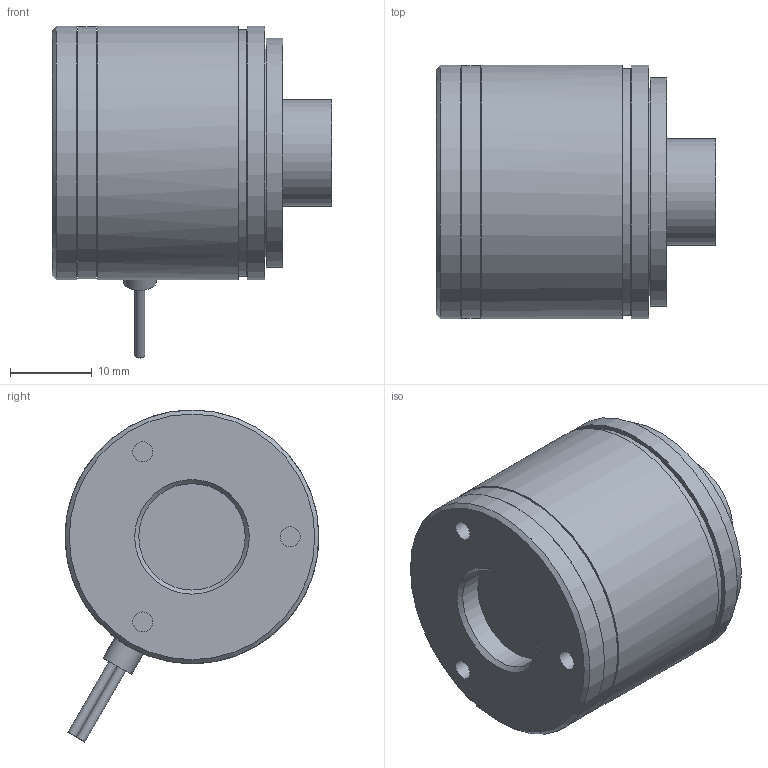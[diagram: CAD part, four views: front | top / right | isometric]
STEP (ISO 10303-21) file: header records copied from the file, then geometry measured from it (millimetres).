
FILE_DESCRIPTION(/* description */ (''),/* implementation_level */ '2;1');
FILE_NAME(/* name */ 'G:\Zeichnungsarchiv\3D-Modelle\14.120.03\14.120.03.201\14.120.03.201-001_Durchmesser 8mm.stp',/* time_stamp */ '2013-07-11T14:55:51+02:00',/* author */ ('thomas.schoettelndre'),/* organization */ (''),/* preprocessor_version */ 'ST-DEVELOPER v15.2',/* originating_system */ 'Autodesk Inventor 2014',/* authorisation */ '');
FILE_SCHEMA (('AUTOMOTIVE_DESIGN { 1 0 10303 214 3 1 1 }'));
Length unit declared in the file: centimetre
Products named in the file (1): 14.120.03
Bounding box: 34.15 x 31 x 40.56 mm (x, y, z)
Volume: 19350.7 mm3; surface area: 11225.4 mm2
Topology: 3 solids, 3 shells, 284 faces, 792 edges, 515 vertices
Faces by surface type: cylinder 134, plane 112, cone 16, bspline 14, torus 8
Full cylindrical faces by diameter (mm): 2.459 x3, 2.5 x6, 3 x2, 3.7 x2, 4 x1, 5.5 x2, 8 x1, 13 x2, 18 x2, 20 x1, 25 x1, 25.5 x1, 28 x2, 30.8 x1, 31 x3
Entity records: 10011 total; most frequent: CARTESIAN_POINT 2469, ORIENTED_EDGE 1478, DIRECTION 1468, EDGE_CURVE 739, AXIS2_PLACEMENT_3D 578, VERTEX_POINT 502, EDGE_LOOP 387, LINE 312
